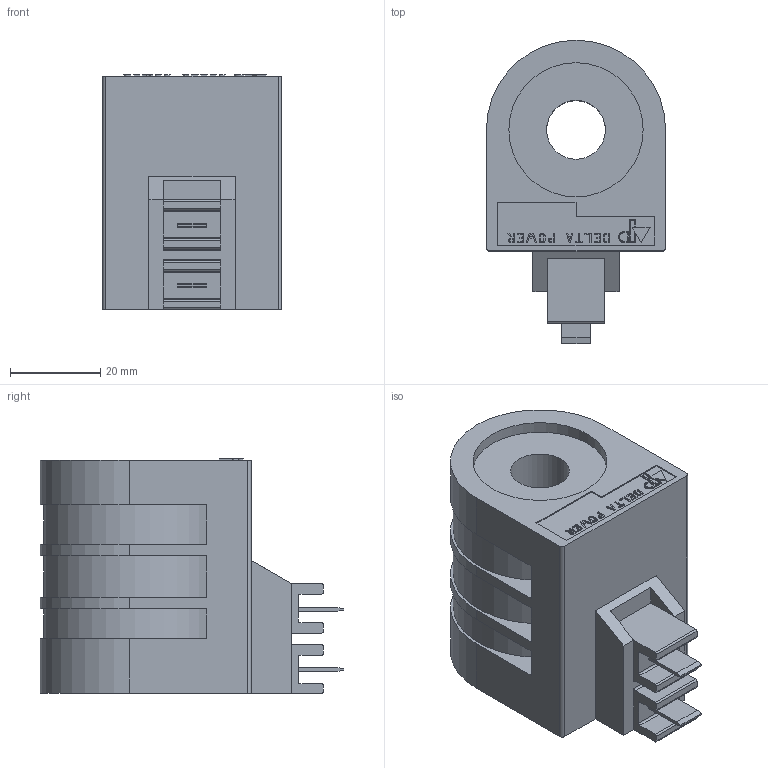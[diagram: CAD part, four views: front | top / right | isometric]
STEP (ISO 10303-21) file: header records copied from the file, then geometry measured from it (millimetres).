
FILE_DESCRIPTION((''),'2;1');
FILE_NAME('U:\Solid model CD\Solid model full\Coils\STEP\DDS.stp','2009-01-16T14:59:03',('Dan'),(''),'Autodesk Inventor 2009','Autodesk Inventor 2009','');
FILE_SCHEMA(('AUTOMOTIVE_DESIGN { 1 0 10303 214 1 1 1 1 }'));
Length unit declared in the file: inch
Products named in the file (1): DDS
Bounding box: 39.62 x 67.06 x 51.82 mm (x, y, z)
Volume: 78304.5 mm3; surface area: 17060.8 mm2
Topology: 13 solids, 13 shells, 250 faces, 654 edges, 435 vertices
Faces by surface type: plane 206, cylinder 44
Full cylindrical faces by diameter (mm): 13.005 x1, 29.694 x2
Entity records: 7662 total; most frequent: CARTESIAN_POINT 1335, ORIENTED_EDGE 1300, DIRECTION 1240, EDGE_CURVE 650, VECTOR 562, LINE 562, VERTEX_POINT 434, AXIS2_PLACEMENT_3D 339
